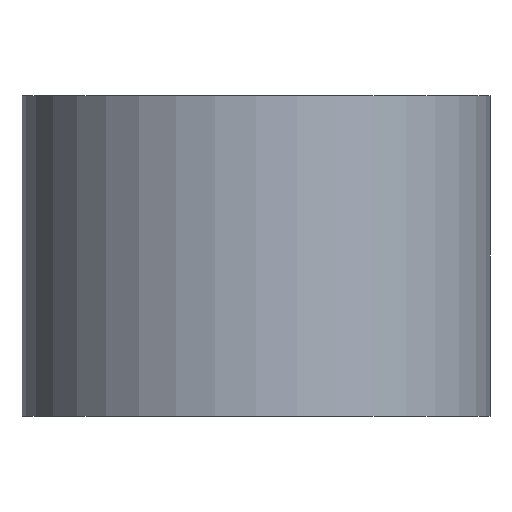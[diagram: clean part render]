
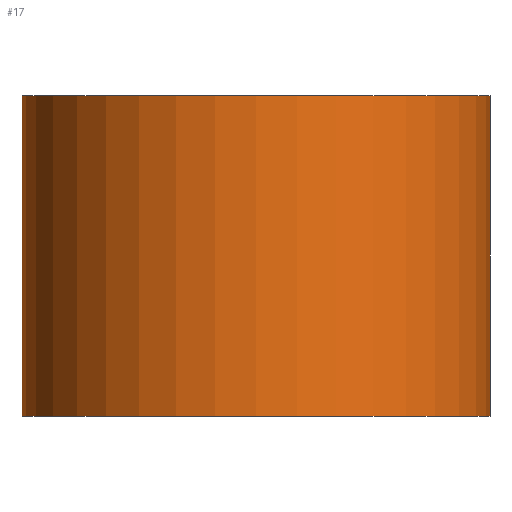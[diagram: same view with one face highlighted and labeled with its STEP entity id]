
A CAD part, front view. The second image highlights one B-rep face of the part: STEP entity #17.
In plain terms, the highlighted cylindrical face has radius 14 mm (diameter 28 mm), a full revolution.
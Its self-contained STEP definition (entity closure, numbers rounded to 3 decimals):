
#17 = ADVANCED_FACE('',(#18),#31,.T.);
#18 = FACE_BOUND('',#19,.T.);
#19 = EDGE_LOOP('',(#20,#54,#77,#104));
#20 = ORIENTED_EDGE('',*,*,#21,.F.);
#21 = EDGE_CURVE('',#22,#22,#24,.T.);
#22 = VERTEX_POINT('',#23);
#23 = CARTESIAN_POINT('',(14.,0.,9.6));
#24 = SURFACE_CURVE('',#25,(#30,#42),.PCURVE_S1.);
#25 = CIRCLE('',#26,14.);
#26 = AXIS2_PLACEMENT_3D('',#27,#28,#29);
#27 = CARTESIAN_POINT('',(0.,0.,9.6));
#28 = DIRECTION('',(0.,0.,1.));
#29 = DIRECTION('',(1.,0.,0.));
#30 = PCURVE('',#31,#36);
#31 = CYLINDRICAL_SURFACE('',#32,14.);
#32 = AXIS2_PLACEMENT_3D('',#33,#34,#35);
#33 = CARTESIAN_POINT('',(0.,0.,-9.6));
#34 = DIRECTION('',(0.,0.,1.));
#35 = DIRECTION('',(1.,0.,0.));
#36 = DEFINITIONAL_REPRESENTATION('',(#37),#41);
#37 = LINE('',#38,#39);
#38 = CARTESIAN_POINT('',(0.,19.2));
#39 = VECTOR('',#40,1.);
#40 = DIRECTION('',(1.,0.));
#41 = ( GEOMETRIC_REPRESENTATION_CONTEXT(2) 
PARAMETRIC_REPRESENTATION_CONTEXT() REPRESENTATION_CONTEXT('2D SPACE',''
  ) );
#42 = PCURVE('',#43,#48);
#43 = PLANE('',#44);
#44 = AXIS2_PLACEMENT_3D('',#45,#46,#47);
#45 = CARTESIAN_POINT('',(0.,0.,9.6));
#46 = DIRECTION('',(0.,0.,1.));
#47 = DIRECTION('',(1.,0.,0.));
#48 = DEFINITIONAL_REPRESENTATION('',(#49),#53);
#49 = CIRCLE('',#50,14.);
#50 = AXIS2_PLACEMENT_2D('',#51,#52);
#51 = CARTESIAN_POINT('',(0.,0.));
#52 = DIRECTION('',(1.,0.));
#53 = ( GEOMETRIC_REPRESENTATION_CONTEXT(2) 
PARAMETRIC_REPRESENTATION_CONTEXT() REPRESENTATION_CONTEXT('2D SPACE',''
  ) );
#54 = ORIENTED_EDGE('',*,*,#55,.F.);
#55 = EDGE_CURVE('',#56,#22,#58,.T.);
#56 = VERTEX_POINT('',#57);
#57 = CARTESIAN_POINT('',(14.,0.,-9.6));
#58 = SEAM_CURVE('',#59,(#63,#70),.PCURVE_S1.);
#59 = LINE('',#60,#61);
#60 = CARTESIAN_POINT('',(14.,0.,-9.6));
#61 = VECTOR('',#62,1.);
#62 = DIRECTION('',(0.,0.,1.));
#63 = PCURVE('',#31,#64);
#64 = DEFINITIONAL_REPRESENTATION('',(#65),#69);
#65 = LINE('',#66,#67);
#66 = CARTESIAN_POINT('',(6.283,-0.));
#67 = VECTOR('',#68,1.);
#68 = DIRECTION('',(0.,1.));
#69 = ( GEOMETRIC_REPRESENTATION_CONTEXT(2) 
PARAMETRIC_REPRESENTATION_CONTEXT() REPRESENTATION_CONTEXT('2D SPACE',''
  ) );
#70 = PCURVE('',#31,#71);
#71 = DEFINITIONAL_REPRESENTATION('',(#72),#76);
#72 = LINE('',#73,#74);
#73 = CARTESIAN_POINT('',(0.,-0.));
#74 = VECTOR('',#75,1.);
#75 = DIRECTION('',(0.,1.));
#76 = ( GEOMETRIC_REPRESENTATION_CONTEXT(2) 
PARAMETRIC_REPRESENTATION_CONTEXT() REPRESENTATION_CONTEXT('2D SPACE',''
  ) );
#77 = ORIENTED_EDGE('',*,*,#78,.T.);
#78 = EDGE_CURVE('',#56,#56,#79,.T.);
#79 = SURFACE_CURVE('',#80,(#85,#92),.PCURVE_S1.);
#80 = CIRCLE('',#81,14.);
#81 = AXIS2_PLACEMENT_3D('',#82,#83,#84);
#82 = CARTESIAN_POINT('',(0.,0.,-9.6));
#83 = DIRECTION('',(0.,0.,1.));
#84 = DIRECTION('',(1.,0.,0.));
#85 = PCURVE('',#31,#86);
#86 = DEFINITIONAL_REPRESENTATION('',(#87),#91);
#87 = LINE('',#88,#89);
#88 = CARTESIAN_POINT('',(0.,0.));
#89 = VECTOR('',#90,1.);
#90 = DIRECTION('',(1.,0.));
#91 = ( GEOMETRIC_REPRESENTATION_CONTEXT(2) 
PARAMETRIC_REPRESENTATION_CONTEXT() REPRESENTATION_CONTEXT('2D SPACE',''
  ) );
#92 = PCURVE('',#93,#98);
#93 = PLANE('',#94);
#94 = AXIS2_PLACEMENT_3D('',#95,#96,#97);
#95 = CARTESIAN_POINT('',(0.,0.,-9.6));
#96 = DIRECTION('',(0.,0.,1.));
#97 = DIRECTION('',(1.,0.,0.));
#98 = DEFINITIONAL_REPRESENTATION('',(#99),#103);
#99 = CIRCLE('',#100,14.);
#100 = AXIS2_PLACEMENT_2D('',#101,#102);
#101 = CARTESIAN_POINT('',(0.,0.));
#102 = DIRECTION('',(1.,0.));
#103 = ( GEOMETRIC_REPRESENTATION_CONTEXT(2) 
PARAMETRIC_REPRESENTATION_CONTEXT() REPRESENTATION_CONTEXT('2D SPACE',''
  ) );
#104 = ORIENTED_EDGE('',*,*,#55,.T.);
